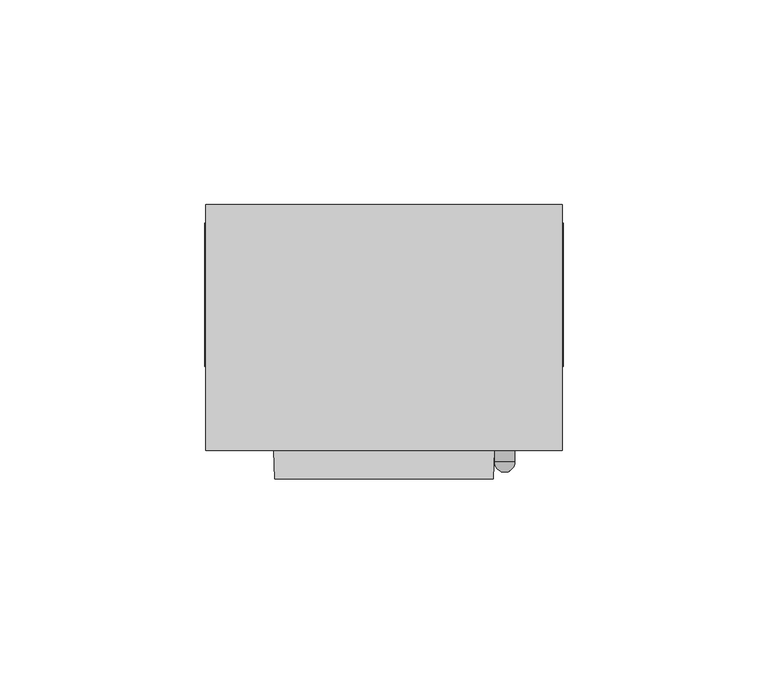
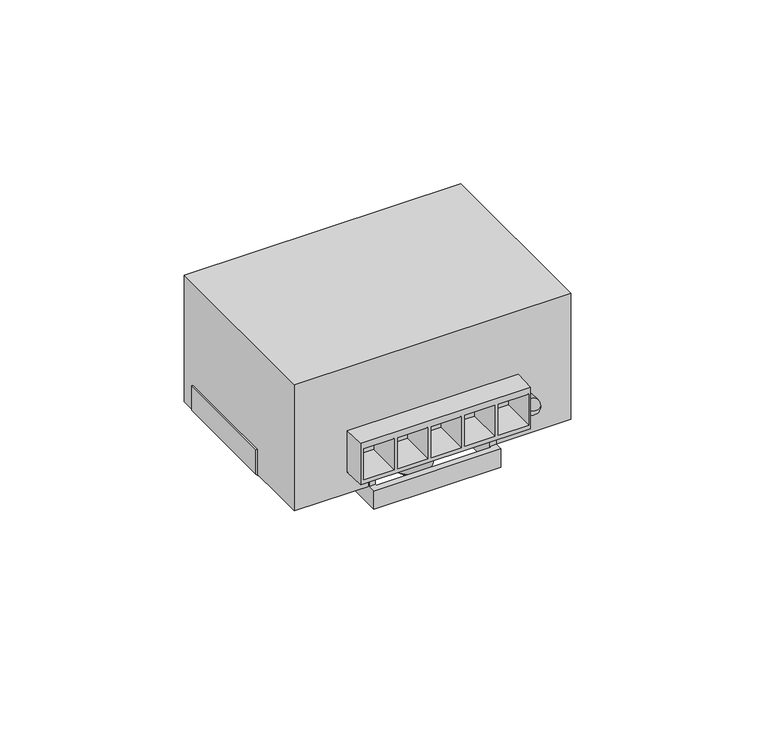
"""IFC4 building model written with IfcOpenShell, lengths in millimetres: proxy geometry, CONVER MAT 24V 12V 3A 6A : CONVER MAT 24V 12V 3A 6A."""

from ifc_helpers import new_model, si_unit, point, frame, frame_2d, origin, place, context, project, spatial, circle_curve, ellipse_curve, trimmed, segment, composite_curve, outline, extrude, faceted_brep, source, transform, mapped, element, save
from ifc_brep_helpers import plane_surface, cylinder_surface, revolved_surface, advanced_brep


def electrical_equipment_ec815980(model_context):
    return source(origin(), model_context, "Body", "SolidModel", [
        faceted_brep([(20.0, -21.0, -6.1), (20.0, -44.0, -6.1), (-20.0, -44.0, -6.1), (-20.0, -21.0, -6.1), (-37.75, -21.0, -6.1), (-37.75, 14.0, -6.1), (37.75, 14.0, -6.1), (37.75, -21.0, -6.1), (-35.75, 12.0, -6.1), (-35.75, -19.0, -6.1), (-18.0, -19.0, -6.1), (-18.0, -42.0, -6.1), (18.0, -42.0, -6.1), (18.0, -19.0, -6.1), (35.75, -19.0, -6.1), (35.75, 12.0, -6.1), (43.75, 14.0, 8.0), (-43.75, 14.0, 8.0), (-43.75, -21.0, 8.0), (-20.0, -21.0, 8.0), (-20.0, -44.0, 8.0), (20.0, -44.0, 8.0), (20.0, -21.0, 8.0), (43.75, -21.0, 8.0), (43.75, -21.0, -0.1), (43.75, 14.0, -0.1), (20.0, -44.0, 7.0873019), (20.0, -41.5, 7.0), (20.0, -41.5, -0.0976562), (20.0, -44.0, -0.0976562), (-20.0, -44.0, -0.0976562), (-20.0, -44.0, 7.0873019), (-20.0, -41.5, -0.0976562), (-20.0, -41.5, 7.0), (-43.75, -21.0, -0.1), (-43.75, 14.0, -0.1), (18.0, -41.5, -0.0976562), (18.0, -42.0, -0.0976562), (-18.0, -42.0, -0.0976562), (-18.0, -41.5, -0.0976562), (-18.0, -41.5, 2.5), (18.0, -41.5, 2.5), (-35.75, 12.0, 2.5), (35.75, 12.0, 2.5), (35.75, -19.0, 2.5), (18.0, -19.0, 2.5), (-18.0, -19.0, 2.5), (-35.75, -19.0, 2.5)], [[[0, 1, 2, 3, 4, 5, 6, 7], [8, 9, 10, 11, 12, 13, 14, 15]], [[16, 17, 18, 19, 20, 21, 22, 23]], [[16, 23, 24, 25]], [[23, 22, 0, 7, 24]], [[1, 0, 22, 21, 26, 27, 28, 29]], [[2, 1, 29, 30]], [[21, 20, 31, 26]], [[3, 2, 30, 32, 33, 31, 20, 19]], [[19, 18, 34, 4, 3]], [[18, 17, 35, 34]], [[17, 16, 25, 6, 5, 35]], [[5, 4, 34, 35]], [[7, 6, 25, 24]], [[29, 28, 36, 37, 38, 39, 32, 30]], [[27, 33, 32, 39, 40, 41, 36, 28]], [[33, 27, 26, 31]], [[42, 43, 44, 45, 41, 40, 46, 47]], [[42, 47, 9, 8]], [[47, 46, 10, 9]], [[10, 46, 40, 39, 38, 11]], [[11, 38, 37, 12]], [[45, 13, 12, 37, 36, 41]], [[45, 44, 14, 13]], [[44, 43, 15, 14]], [[43, 42, 8, 15]]]),
        extrude(outline(composite_curve([segment(trimmed(circle_curve(frame_2d((-29.2036969, -3.511656)), 4.0505418), [point((-25.1531551, -3.511656))], [point((-33.2542387, -3.511656))], False, "CARTESIAN"), True, "CONTINUOUS"), segment(trimmed(circle_curve(frame_2d((-29.2036969, -3.511656)), 4.0505418), [point((-33.2542387, -3.511656))], [point((-25.1531551, -3.511656))], False, "CARTESIAN"), True, "CONTINUOUS")], self_intersect=False), holes=[composite_curve([segment(trimmed(circle_curve(frame_2d((-29.2036969, -3.511656)), 2.5505418), [point((-26.6531551, -3.511656))], [point((-31.7542387, -3.511656))], True, "CARTESIAN"), True, "CONTINUOUS"), segment(trimmed(circle_curve(frame_2d((-29.2036969, -3.511656)), 2.5505418), [point((-31.7542387, -3.511656))], [point((-26.6531551, -3.511656))], True, "CARTESIAN"), True, "CONTINUOUS")], self_intersect=False)]), frame((0.0, 0.0, -8.0), z_axis=(0.0, 0.0, 1.0), x_axis=(1.0, 0.0, 0.0)), (0.0, 0.0, 1.0), 5.4),
        extrude(outline(composite_curve([segment(trimmed(circle_curve(frame_2d((31.2349469, -3.511656)), 4.0505418), [point((35.2854887, -3.511656))], [point((27.1844051, -3.511656))], False, "CARTESIAN"), True, "CONTINUOUS"), segment(trimmed(circle_curve(frame_2d((31.2349469, -3.511656)), 4.0505418), [point((27.1844051, -3.511656))], [point((35.2854887, -3.511656))], False, "CARTESIAN"), True, "CONTINUOUS")], self_intersect=False), holes=[composite_curve([segment(trimmed(circle_curve(frame_2d((31.2349469, -3.511656)), 2.5505418), [point((33.7854887, -3.511656))], [point((28.6844051, -3.511656))], True, "CARTESIAN"), True, "CONTINUOUS"), segment(trimmed(circle_curve(frame_2d((31.2349469, -3.511656)), 2.5505418), [point((28.6844051, -3.511656))], [point((33.7854887, -3.511656))], True, "CARTESIAN"), True, "CONTINUOUS")], self_intersect=False)]), frame((0.0, 0.0, -8.0), z_axis=(0.0, 0.0, 1.0), x_axis=(1.0, 0.0, 0.0)), (0.0, 0.0, 1.0), 5.4),
        extrude(outline(composite_curve([segment(trimmed(circle_curve(frame_2d((-0.1400531, -29.1577196)), 4.0505418), [point((3.9104887, -29.1577196))], [point((-4.1905949, -29.1577196))], False, "CARTESIAN"), True, "CONTINUOUS"), segment(trimmed(circle_curve(frame_2d((-0.1400531, -29.1577196)), 4.0505418), [point((-4.1905949, -29.1577196))], [point((3.9104887, -29.1577196))], False, "CARTESIAN"), True, "CONTINUOUS")], self_intersect=False), holes=[composite_curve([segment(trimmed(circle_curve(frame_2d((-0.1400531, -29.1577196)), 2.5505418), [point((2.4104887, -29.1577196))], [point((-2.6905949, -29.1577196))], True, "CARTESIAN"), True, "CONTINUOUS"), segment(trimmed(circle_curve(frame_2d((-0.1400531, -29.1577196)), 2.5505418), [point((-2.6905949, -29.1577196))], [point((2.4104887, -29.1577196))], True, "CARTESIAN"), True, "CONTINUOUS")], self_intersect=False)]), frame((0.0, 0.0, -8.0), z_axis=(0.0, 0.0, 1.0), x_axis=(1.0, 0.0, 0.0)), (0.0, 0.0, 1.0), 5.4),
        extrude(outline(composite_curve([segment(trimmed(circle_curve(frame_2d((-29.3618781, -3.511656)), 6.4155439), [point((-35.7774221, -3.511656))], [point((-22.9463342, -3.511656))], False, "CARTESIAN"), True, "CONTINUOUS"), segment(trimmed(circle_curve(frame_2d((-29.3618781, -3.511656)), 6.4155439), [point((-22.9463342, -3.511656))], [point((-35.7774221, -3.511656))], False, "CARTESIAN"), True, "CONTINUOUS")], self_intersect=False), holes=[composite_curve([segment(trimmed(circle_curve(frame_2d((-29.2036969, -3.511656)), 4.0505418), [point((-33.2542387, -3.511656))], [point((-25.1531551, -3.511656))], True, "CARTESIAN"), True, "CONTINUOUS"), segment(trimmed(circle_curve(frame_2d((-29.2036969, -3.511656)), 4.0505418), [point((-25.1531551, -3.511656))], [point((-33.2542387, -3.511656))], True, "CARTESIAN"), True, "CONTINUOUS")], self_intersect=False)]), frame((0.0, 0.0, -6.1), z_axis=(0.0, 0.0, 1.0), x_axis=(1.0, 0.0, 0.0)), (0.0, 0.0, 1.0), 3.5),
        extrude(outline(composite_curve([segment(trimmed(circle_curve(frame_2d((31.3931281, -3.511656)), 6.4155439), [point((37.8086721, -3.511656))], [point((24.9775842, -3.511656))], False, "CARTESIAN"), True, "CONTINUOUS"), segment(trimmed(circle_curve(frame_2d((31.3931281, -3.511656)), 6.4155439), [point((24.9775842, -3.511656))], [point((37.8086721, -3.511656))], False, "CARTESIAN"), True, "CONTINUOUS")], self_intersect=False), holes=[composite_curve([segment(trimmed(circle_curve(frame_2d((31.2349469, -3.511656)), 4.0505418), [point((35.2854887, -3.511656))], [point((27.1844051, -3.511656))], True, "CARTESIAN"), True, "CONTINUOUS"), segment(trimmed(circle_curve(frame_2d((31.2349469, -3.511656)), 4.0505418), [point((27.1844051, -3.511656))], [point((35.2854887, -3.511656))], True, "CARTESIAN"), True, "CONTINUOUS")], self_intersect=False)]), frame((0.0, 0.0, -6.1), z_axis=(0.0, 0.0, 1.0), x_axis=(1.0, 0.0, 0.0)), (0.0, 0.0, 1.0), 3.5),
        extrude(outline(composite_curve([segment(trimmed(circle_curve(frame_2d((0.0181281, -29.1577196)), 6.4155439), [point((6.4336721, -29.1577196))], [point((-6.3974158, -29.1577196))], False, "CARTESIAN"), True, "CONTINUOUS"), segment(trimmed(circle_curve(frame_2d((0.0181281, -29.1577196)), 6.4155439), [point((-6.3974158, -29.1577196))], [point((6.4336721, -29.1577196))], False, "CARTESIAN"), True, "CONTINUOUS")], self_intersect=False), holes=[composite_curve([segment(trimmed(circle_curve(frame_2d((-0.1400531, -29.1577196)), 4.0505418), [point((3.9104887, -29.1577196))], [point((-4.1905949, -29.1577196))], True, "CARTESIAN"), True, "CONTINUOUS"), segment(trimmed(circle_curve(frame_2d((-0.1400531, -29.1577196)), 4.0505418), [point((-4.1905949, -29.1577196))], [point((3.9104887, -29.1577196))], True, "CARTESIAN"), True, "CONTINUOUS")], self_intersect=False)]), frame((0.0, 0.0, -6.1), z_axis=(0.0, 0.0, 1.0), x_axis=(1.0, 0.0, 0.0)), (0.0, 0.0, 1.0), 3.5),
        advanced_brep(
        [(26.9785983, -44.3500723, 11.0472344), (31.9710861, -44.3500723, 11.0472344), (29.4748422, -46.8463163, 11.0472344), (26.9785983, -41.5, 11.0472344), (31.9710861, -41.5, 11.0472344), (29.4748422, -41.5, 11.0472344)],
        [
            (0, 1, circle_curve(frame((29.4748422, -44.3500723, 11.0472344), z_axis=(0.0, -1.0, 0.0), x_axis=(1.0, 0.0, 0.0)), 2.4962439)),
            (1, 2, circle_curve(frame((29.4748422, -44.3500723, 11.0472344), z_axis=(0.0, 0.0, -1.0), x_axis=(1.0, 0.0, 0.0)), 2.4962439)),
            (2, 0, circle_curve(frame((29.4748422, -44.3500723, 11.0472344), z_axis=(0.0, 0.0, -1.0), x_axis=(-1.0, 0.0, 0.0)), 2.4962439)),
            (1, 0, circle_curve(frame((29.4748422, -44.3500723, 11.0472344), z_axis=(0.0, -1.0, 0.0), x_axis=(1.0, 0.0, 0.0)), 2.4962439)),
            (3, 4, circle_curve(frame((29.4748422, -41.5, 11.0472344), z_axis=(0.0, -1.0, 0.0), x_axis=(1.0, 0.0, 0.0)), 2.4962439)),
            (4, 1),
            (0, 3),
            (4, 3, circle_curve(frame((29.4748422, -41.5, 11.0472344), z_axis=(0.0, -1.0, 0.0), x_axis=(1.0, 0.0, 0.0)), 2.4962439)),
            (5, 4),
            (3, 5),
        ],
        [
            revolved_surface(trimmed(ellipse_curve(frame((29.4748422, -44.3500723, 11.0472344), z_axis=(0.0, 0.0, 1.0), x_axis=(1.0, 0.0, 0.0)), 2.4962439, 2.4962439), [point((29.4748422, -46.8463163, 11.0472344))], [point((31.9710861, -44.3500723, 11.0472344))], True, "CARTESIAN"), (29.4748422, -41.5, 11.0472344), (0.0, 1.0, 0.0)),
            cylinder_surface(frame((29.4748422, -41.5, 11.0472344), z_axis=(0.0, 1.0, 0.0), x_axis=(1.0, 0.0, 0.0)), 2.4962439),
            plane_surface(frame((29.4748422, -41.5, 11.0472344), z_axis=(0.0, 1.0, 0.0), x_axis=(1.0, 0.0, 0.0))),
        ],
        [
            (0, [[1, 2, 3]]),
            (0, [[4, -3, -2]]),
            (1, [[5, 6, -1, 7]]),
            (1, [[8, -7, -4, -6]]),
            (2, [[9, -5, 10]]),
            (2, [[-10, -8, -9]]),
        ],
    ),
        faceted_brep([(43.5, 18.5, 42.0), (-43.5, 18.5, 42.0), (-43.5, -41.5, 42.0), (43.5, -41.5, 42.0), (43.5, 18.5, 0.0), (43.5, -41.5, 0.0), (18.0, -41.5, 0.0), (18.0, -19.0, 0.0), (35.75, -19.0, 0.0), (35.75, 12.0, 0.0), (-35.75, 12.0, 0.0), (-35.75, -19.0, 0.0), (-18.0, -19.0, 0.0), (-18.0, -41.5, 0.0), (-43.5, -41.5, 0.0), (-43.5, 18.5, 0.0), (-18.0, -41.5, 2.5), (18.0, -41.5, 2.5), (-26.8675993, -41.5, 20.9), (26.8745015, -41.5, 20.9), (26.8745015, -41.5, 7.0), (-26.8675993, -41.5, 7.0), (16.6644454, -37.3, 18.6555546), (16.6644454, -37.3, 8.3555546), (26.1444454, -37.3, 8.3555546), (26.1444454, -37.3, 18.6555546), (-16.1755546, -37.3, 8.3555546), (-16.1755546, -37.3, 18.6555546), (-25.6555546, -37.3, 18.6555546), (-25.6555546, -37.3, 8.3555546), (15.5644454, -37.3, 18.6555546), (6.0844454, -37.3, 18.6555546), (6.0844454, -37.3, 8.3555546), (15.5644454, -37.3, 8.3555546), (4.9844454, -37.3, 18.6555546), (-4.4955546, -37.3, 18.6555546), (-4.4955546, -37.3, 8.3555546), (4.9844454, -37.3, 8.3555546), (-5.5955546, -37.3, 18.6555546), (-15.0755546, -37.3, 18.6555546), (-15.0755546, -37.3, 8.3555546), (-5.5955546, -37.3, 8.3555546), (16.6644454, -48.5, 18.6555546), (16.6644454, -48.5, 8.3555546), (26.1444454, -48.5, 8.3555546), (26.1444454, -48.5, 18.6555546), (-16.1755546, -48.5, 8.3555546), (-16.1755546, -48.5, 18.6555546), (-25.6555546, -48.5, 18.6555546), (-25.6555546, -48.5, 8.3555546), (15.5644454, -48.5, 18.6555546), (6.0844454, -48.5, 18.6555546), (6.0844454, -48.5, 8.3555546), (15.5644454, -48.5, 8.3555546), (4.9844454, -48.5, 18.6555546), (-4.4955546, -48.5, 18.6555546), (-4.4955546, -48.5, 8.3555546), (4.9844454, -48.5, 8.3555546), (-5.5955546, -48.5, 18.6555546), (-15.0755546, -48.5, 18.6555546), (-15.0755546, -48.5, 8.3555546), (-5.5955546, -48.5, 8.3555546), (-26.6373386, -48.5, 20.9), (26.6300562, -48.5, 20.9), (26.6300562, -48.5, 7.0), (-26.6373386, -48.5, 7.0), (-35.75, 12.0, 2.5), (35.75, 12.0, 2.5), (35.75, -19.0, 2.5), (18.0, -19.0, 2.5), (-18.0, -19.0, 2.5), (-35.75, -19.0, 2.5)], [[[0, 1, 2, 3]], [[4, 5, 6, 7, 8, 9, 10, 11, 12, 13, 14, 15]], [[1, 0, 4, 15]], [[2, 1, 15, 14]], [[3, 2, 14, 13, 16, 17, 6, 5], [18, 19, 20, 21]], [[0, 3, 5, 4]], [[22, 23, 24, 25]], [[26, 27, 28, 29]], [[30, 31, 32, 33]], [[34, 35, 36, 37]], [[38, 39, 40, 41]], [[23, 22, 42, 43]], [[24, 23, 43, 44]], [[25, 24, 44, 45]], [[22, 25, 45, 42]], [[27, 26, 46, 47]], [[28, 27, 47, 48]], [[29, 28, 48, 49]], [[26, 29, 49, 46]], [[31, 30, 50, 51]], [[32, 31, 51, 52]], [[33, 32, 52, 53]], [[30, 33, 53, 50]], [[35, 34, 54, 55]], [[36, 35, 55, 56]], [[37, 36, 56, 57]], [[34, 37, 57, 54]], [[39, 38, 58, 59]], [[40, 39, 59, 60]], [[41, 40, 60, 61]], [[38, 41, 61, 58]], [[18, 62, 63, 19]], [[20, 64, 65, 21]], [[62, 18, 21, 65]], [[63, 62, 65, 64], [43, 42, 45, 44], [47, 46, 49, 48], [51, 50, 53, 52], [55, 54, 57, 56], [59, 58, 61, 60]], [[19, 63, 64, 20]], [[66, 67, 68, 69, 17, 16, 70, 71]], [[66, 71, 11, 10]], [[71, 70, 12, 11]], [[70, 16, 13, 12]], [[17, 69, 7, 6]], [[69, 68, 8, 7]], [[68, 67, 9, 8]], [[67, 66, 10, 9]]]),
    ])


if __name__ == "__main__":
    model = new_model("IFC4")
    model_context = context("Model", 3, world=origin())
    ifc_project = project(units=[si_unit("LENGTHUNIT", "METRE", prefix="MILLI")], contexts=[model_context])
    site = spatial("IfcSite", under=ifc_project)
    building = spatial("IfcBuilding", under=site)
    placement = place(None, origin())
    electrical_equipment_shape = electrical_equipment_ec815980(model_context)
    element("IfcBuildingElementProxy", 1, Name="CONVER MAT 24V 12V 3A 6A : CONVER MAT 24V 12V 3A 6A", ObjectType="CONVER MAT 24V 12V 3A 6A : CONVER MAT 24V 12V 3A 6A", at=placement, inside=building, context=model_context, shape_type="MappedRepresentation", body=[
        mapped(electrical_equipment_shape, transform((0.0, 0.0, 0.0), x_axis=(1.0, 0.0, 0.0), y_axis=(0.0, 1.0, 0.0), z_axis=(0.0, 0.0, 1.0))),
    ])
    save(model, "model.ifc")
